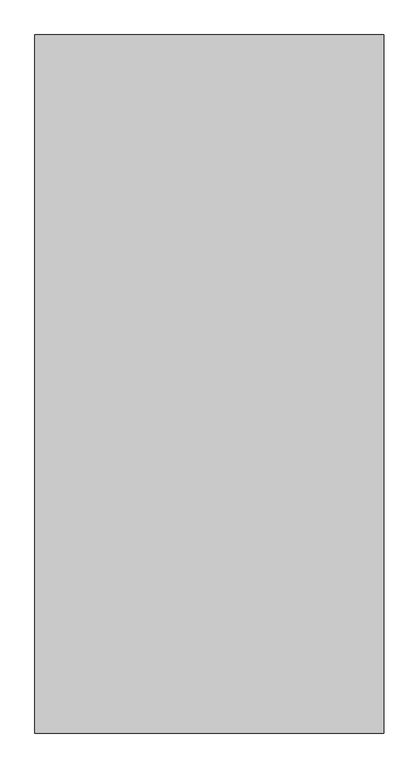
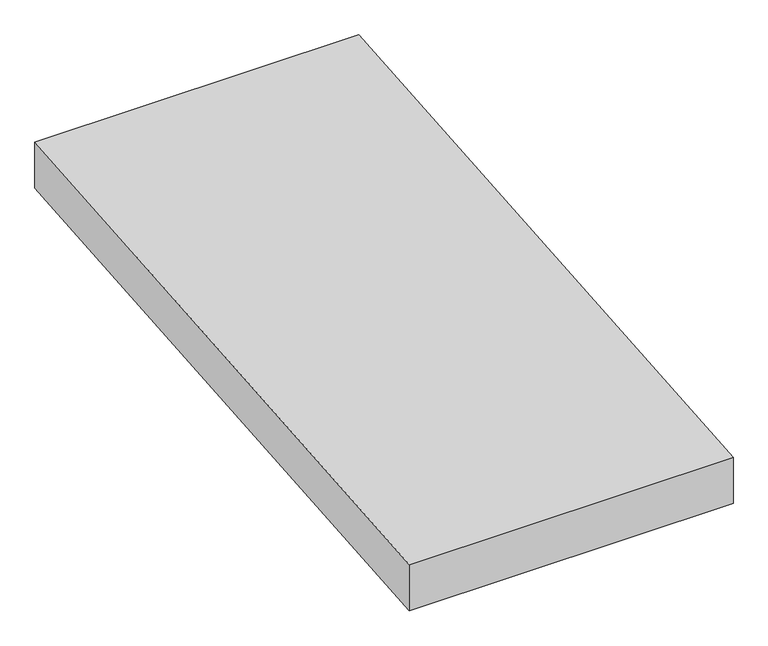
"""IFC4 building model written with IfcOpenShell, lengths in millimetres: ramp geometry, Пандус 1."""

from ifc_helpers import new_model, si_unit, frame, origin, place, context, project, spatial, polyline, outline, extrude, source, transform, mapped, element, save


def ramp_92e51838(model_context):
    return source(origin(), model_context, "Body", "SweptSolid", [
        extrude(outline(polyline([(7233.2944848, 0.0), (9233.2944848, 166.6666667), (9233.2944848, 16.1467344), (7233.2944848, -150.5199322), (7233.2944848, 0.0)])), frame((-4097.0702666, 0.0, 0.0), z_axis=(1.0, 0.0, 0.0), x_axis=(0.0, 1.0, 0.0)), (0.0, 0.0, 1.0), 1000.0),
    ])


if __name__ == "__main__":
    model = new_model("IFC4")
    model_context = context("Model", 3, world=origin())
    ifc_project = project(units=[si_unit("LENGTHUNIT", "METRE", prefix="MILLI")], contexts=[model_context])
    site = spatial("IfcSite", under=ifc_project)
    building = spatial("IfcBuilding", under=site)
    placement = place(None, origin())
    ramp_shape = ramp_92e51838(model_context)
    element("IfcRamp", 1, ObjectType="Пандус 1", at=placement, inside=building, context=model_context, shape_type="MappedRepresentation", body=[
        mapped(ramp_shape, transform((0.0, 0.0, 0.0), x_axis=(1.0, 0.0, 0.0), y_axis=(0.0, 1.0, 0.0), z_axis=(0.0, 0.0, 1.0))),
    ])
    save(model, "model.ifc")
